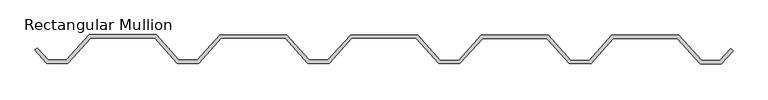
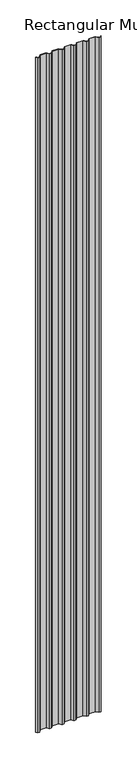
"""IFC4 building model written with IfcOpenShell, lengths in millimetres: member geometry, Rectangular Mullion : Telha Metálica - Trapezoidal."""

from ifc_helpers import new_model, si_unit, frame, origin, place, context, project, spatial, polyline, outline, extrude, source, transform, mapped, element, save


def rectangular_mullion_7b8b6f2e(model_context):
    return source(origin(), model_context, "Body", "SweptSolid", [
        extrude(outline(polyline([(440.066155, 75.6159987), (344.0661915, 75.6997745), (310.0330432, 37.7294595), (278.0330554, 37.7573848), (244.0662296, 75.7870409), (148.0662661, 75.8708167), (114.0331178, 37.9005018), (82.03313, 37.928427), (48.0663042, 75.9580832), (-47.9336592, 76.041859), (-81.9668075, 38.071544), (-113.9667953, 38.0994693), (-147.9336211, 76.1291254), (-243.9335846, 76.2129012), (-277.9667329, 38.2425863), (-309.9667207, 38.2705115), (-343.9335465, 76.3001677), (-439.93351, 76.3839434), (-473.9666583, 38.4136285), (-505.9666461, 38.4415538), (-523.4905169, 58.0614849), (-519.9464424, 61.5993792), (-503.7267316, 43.439601), (-476.1978461, 43.4155775), (-442.1646978, 81.3858924), (-341.693632, 81.2982149), (-307.7268062, 43.2685587), (-280.1979207, 43.2445352), (-246.1647724, 81.2148502), (-145.6937067, 81.1271726), (-111.7268809, 43.0975165), (-84.1979953, 43.073493), (-50.164847, 81.0438079), (50.3062187, 80.9561304), (84.2730445, 42.9264742), (111.80193, 42.9024508), (145.8350783, 80.8727657), (246.3061441, 80.7850881), (280.2729699, 42.755432), (307.8018554, 42.7314085), (341.8350037, 80.7017235), (442.3060694, 80.6140459), (476.2728952, 42.5843898), (503.8017808, 42.5603663), (520.072301, 60.7131616), (523.6101953, 57.1690871), (506.0329686, 37.5584173), (474.0329808, 37.5863426), (440.066155, 75.6159987)])), frame((0.0, 0.0, -11384.5342427), z_axis=(0.0, 0.0, 1.0), x_axis=(1.0, 0.0, 0.0)), (0.0, 0.0, 1.0), 11384.5342427),
    ])


if __name__ == "__main__":
    model = new_model("IFC4")
    model_context = context("Model", 3, world=origin())
    ifc_project = project(units=[si_unit("LENGTHUNIT", "METRE", prefix="MILLI")], contexts=[model_context])
    site = spatial("IfcSite", under=ifc_project)
    building = spatial("IfcBuilding", under=site)
    placement = place(None, origin())
    rectangular_mullion_shape = rectangular_mullion_7b8b6f2e(model_context)
    element("IfcMember", 1, ObjectType="Rectangular Mullion : Telha Metálica - Trapezoidal", at=placement, inside=building, context=model_context, shape_type="MappedRepresentation", body=[
        mapped(rectangular_mullion_shape, transform((0.0, 0.0, 0.0), x_axis=(1.0, 0.0, 0.0), y_axis=(0.0, 1.0, 0.0), z_axis=(0.0, 0.0, 1.0))),
    ])
    save(model, "model.ifc")
